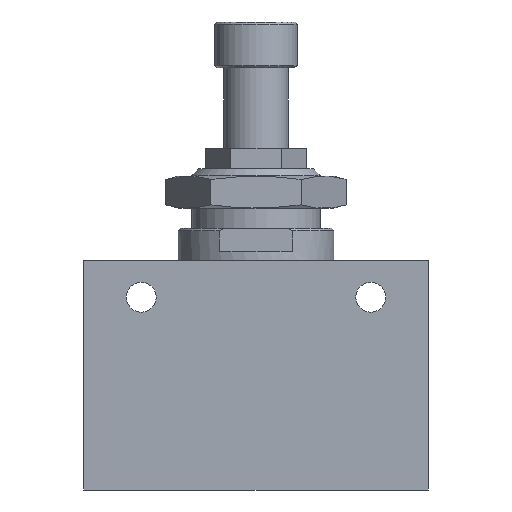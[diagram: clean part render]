
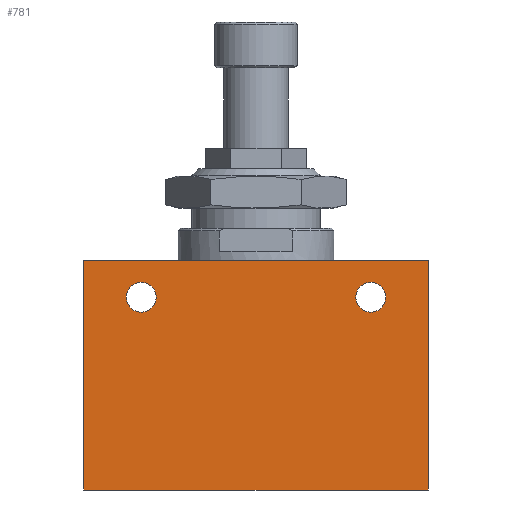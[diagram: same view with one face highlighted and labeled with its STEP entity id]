
A CAD part, front view. The second image highlights one B-rep face of the part: STEP entity #781.
In plain terms, the highlighted planar face has unit normal (0, -1, 0).
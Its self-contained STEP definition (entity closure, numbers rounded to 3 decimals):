
#52=LINE('',#1258,#96);
#57=LINE('',#1269,#101);
#59=LINE('',#1272,#103);
#60=LINE('',#1273,#104);
#96=VECTOR('',#1038,50.);
#101=VECTOR('',#1047,50.);
#103=VECTOR('',#1051,75.);
#104=VECTOR('',#1052,75.);
#147=PLANE('',#863);
#194=FACE_BOUND('',#305,.T.);
#195=FACE_BOUND('',#306,.T.);
#196=FACE_BOUND('',#307,.T.);
#305=EDGE_LOOP('',(#646));
#306=EDGE_LOOP('',(#647));
#307=EDGE_LOOP('',(#648,#649,#650,#651));
#354=CIRCLE('',#849,3.25);
#356=CIRCLE('',#852,3.25);
#398=VERTEX_POINT('',#1218);
#400=VERTEX_POINT('',#1223);
#407=VERTEX_POINT('',#1251);
#410=VERTEX_POINT('',#1256);
#413=VERTEX_POINT('',#1266);
#414=VERTEX_POINT('',#1268);
#474=EDGE_CURVE('',#398,#398,#354,.T.);
#476=EDGE_CURVE('',#400,#400,#356,.T.);
#492=EDGE_CURVE('',#410,#407,#52,.T.);
#497=EDGE_CURVE('',#414,#413,#57,.T.);
#499=EDGE_CURVE('',#413,#407,#59,.T.);
#500=EDGE_CURVE('',#410,#414,#60,.T.);
#646=ORIENTED_EDGE('',*,*,#474,.T.);
#647=ORIENTED_EDGE('',*,*,#476,.T.);
#648=ORIENTED_EDGE('',*,*,#499,.T.);
#649=ORIENTED_EDGE('',*,*,#492,.F.);
#650=ORIENTED_EDGE('',*,*,#500,.T.);
#651=ORIENTED_EDGE('',*,*,#497,.T.);
#781=ADVANCED_FACE('',(#194,#195,#196),#147,.T.);
#849=AXIS2_PLACEMENT_3D('',#1219,#999,#1000);
#852=AXIS2_PLACEMENT_3D('',#1224,#1005,#1006);
#863=AXIS2_PLACEMENT_3D('',#1271,#1049,#1050);
#999=DIRECTION('center_axis',(0.,1.,0.));
#1000=DIRECTION('ref_axis',(-1.,0.,0.));
#1005=DIRECTION('center_axis',(0.,1.,0.));
#1006=DIRECTION('ref_axis',(-1.,0.,0.));
#1038=DIRECTION('',(0.,0.,-1.));
#1047=DIRECTION('',(0.,0.,-1.));
#1049=DIRECTION('center_axis',(0.,-1.,0.));
#1050=DIRECTION('ref_axis',(0.,0.,-1.));
#1051=DIRECTION('',(1.,0.,0.));
#1052=DIRECTION('',(-1.,0.,0.));
#1218=CARTESIAN_POINT('',(28.25,-17.5,-8.));
#1219=CARTESIAN_POINT('Origin',(25.,-17.5,-8.));
#1223=CARTESIAN_POINT('',(-21.75,-17.5,-8.));
#1224=CARTESIAN_POINT('Origin',(-25.,-17.5,-8.));
#1251=CARTESIAN_POINT('',(37.5,-17.5,-50.));
#1256=CARTESIAN_POINT('',(37.5,-17.5,0.));
#1258=CARTESIAN_POINT('',(37.5,-17.5,0.));
#1266=CARTESIAN_POINT('',(-37.5,-17.5,-50.));
#1268=CARTESIAN_POINT('',(-37.5,-17.5,0.));
#1269=CARTESIAN_POINT('',(-37.5,-17.5,0.));
#1271=CARTESIAN_POINT('Origin',(-37.5,-17.5,0.));
#1272=CARTESIAN_POINT('',(37.5,-17.5,-50.));
#1273=CARTESIAN_POINT('',(37.5,-17.5,0.));
